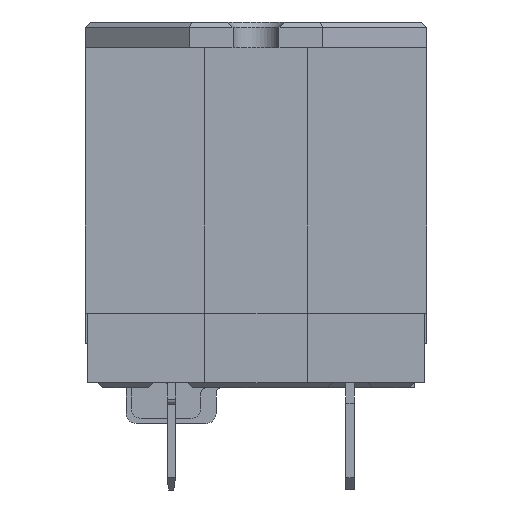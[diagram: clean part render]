
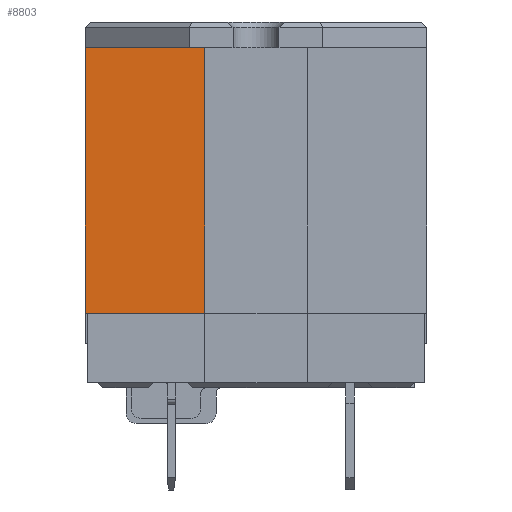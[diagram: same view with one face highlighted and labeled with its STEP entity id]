
A CAD part, left-side view. The second image highlights one B-rep face of the part: STEP entity #8803.
In plain terms, the highlighted planar face has unit normal (-1, 0, 0).
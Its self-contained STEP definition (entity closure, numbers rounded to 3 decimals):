
#230 = CARTESIAN_POINT ( 'NONE',  ( -25.21, -16.348, 6.8 ) ) ;
#288 = VECTOR ( 'NONE', #3184, 1000. ) ;
#847 = CARTESIAN_POINT ( 'NONE',  ( -25.21, 17.052, 6.8 ) ) ;
#1579 = DIRECTION ( 'NONE',  ( 0., 0., 1. ) ) ;
#2118 = CARTESIAN_POINT ( 'NONE',  ( -25.21, 17.052, 6.8 ) ) ;
#2192 = ORIENTED_EDGE ( 'NONE', *, *, #4885, .F. ) ;
#3137 = VECTOR ( 'NONE', #3400, 1000. ) ;
#3184 = DIRECTION ( 'NONE',  ( 0., 0., -1. ) ) ;
#3261 = DIRECTION ( 'NONE',  ( 0., 1., 0. ) ) ;
#3400 = DIRECTION ( 'NONE',  ( 0., 1., 0. ) ) ;
#4409 = EDGE_CURVE ( 'NONE', #10535, #11526, #5918, .T. ) ;
#4783 = CARTESIAN_POINT ( 'NONE',  ( -25.21, 5.352, 32.8 ) ) ;
#4885 = EDGE_CURVE ( 'NONE', #5182, #10535, #10178, .T. ) ;
#5182 = VERTEX_POINT ( 'NONE', #4783 ) ;
#5770 = ORIENTED_EDGE ( 'NONE', *, *, #4409, .F. ) ;
#5918 = LINE ( 'NONE', #230, #3137 ) ;
#6138 = LINE ( 'NONE', #10605, #11423 ) ;
#6457 = CARTESIAN_POINT ( 'NONE',  ( -25.21, 5.352, 32.8 ) ) ;
#6798 = EDGE_CURVE ( 'NONE', #7843, #11526, #8669, .T. ) ;
#6805 = PLANE ( 'NONE',  #7827 ) ;
#7488 = DIRECTION ( 'NONE',  ( 0., 0., -1. ) ) ;
#7827 = AXIS2_PLACEMENT_3D ( 'NONE', #10998, #7871, #1579 ) ;
#7843 = VERTEX_POINT ( 'NONE', #9468 ) ;
#7871 = DIRECTION ( 'NONE',  ( 1., 0., 0. ) ) ;
#8415 = EDGE_CURVE ( 'NONE', #5182, #7843, #6138, .T. ) ;
#8669 = LINE ( 'NONE', #2118, #288 ) ;
#8803 = ADVANCED_FACE ( 'NONE', ( #11458 ), #6805, .F. ) ;
#8820 = CARTESIAN_POINT ( 'NONE',  ( -25.21, 5.352, 6.8 ) ) ;
#8859 = ORIENTED_EDGE ( 'NONE', *, *, #6798, .T. ) ;
#9468 = CARTESIAN_POINT ( 'NONE',  ( -25.21, 17.052, 32.8 ) ) ;
#10178 = LINE ( 'NONE', #6457, #10500 ) ;
#10248 = EDGE_LOOP ( 'NONE', ( #5770, #2192, #10846, #8859 ) ) ;
#10500 = VECTOR ( 'NONE', #7488, 1000. ) ;
#10535 = VERTEX_POINT ( 'NONE', #8820 ) ;
#10605 = CARTESIAN_POINT ( 'NONE',  ( -25.21, -16.348, 32.8 ) ) ;
#10846 = ORIENTED_EDGE ( 'NONE', *, *, #8415, .T. ) ;
#10998 = CARTESIAN_POINT ( 'NONE',  ( -25.21, -16.348, 6.8 ) ) ;
#11423 = VECTOR ( 'NONE', #3261, 1000. ) ;
#11458 = FACE_OUTER_BOUND ( 'NONE', #10248, .T. ) ;
#11526 = VERTEX_POINT ( 'NONE', #847 ) ;
